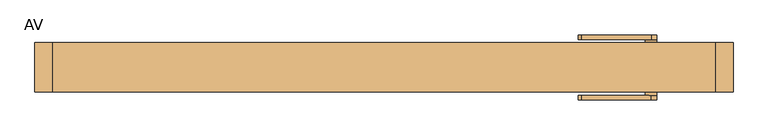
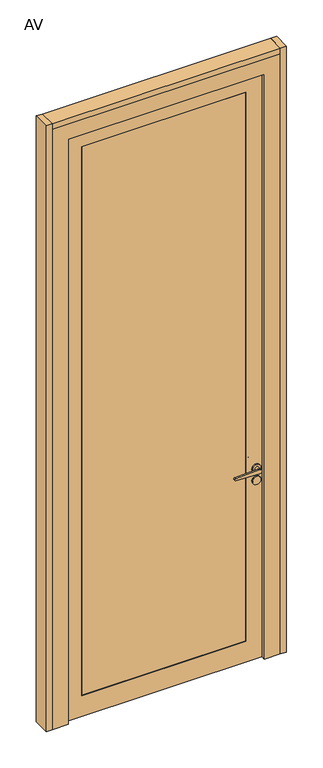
"""IFC4 building model written with IfcOpenShell, lengths in millimetres: door geometry, Mobiliário_Mobiliário de Escritório_Porta de Giro Vidro Duplo - AV_Marelli : AV."""

from ifc_helpers import new_model, si_unit, point, frame, frame_2d, origin, origin_with_axes, place, context, project, spatial, polyline, circle_curve, trimmed, segment, composite_curve, outline, extrude, faceted_brep, source, transform, mapped, element, save


def av_a8ed41e1(model_context):
    return source(origin(), model_context, "Body", "SolidModel", [
        extrude(outline(polyline([(-600.0, 42.5), (-570.0, 42.5), (-570.0, -42.5), (-600.0, -42.5), (-600.0, 42.5)])), origin_with_axes(), (0.0, 0.0, 1.0), 3200.0),
        extrude(outline(polyline([(600.0, 42.5), (600.0, -42.5), (570.0, -42.5), (570.0, 42.5), (600.0, 42.5)])), origin_with_axes(), (0.0, 0.0, 1.0), 3200.0),
        extrude(outline(polyline([(3119.5, -519.5), (0.5, -519.5), (0.5, 519.5), (3119.5, 519.5), (3119.5, -519.5)]), holes=[polyline([(110.5, 409.5), (110.5, -409.5), (3009.5, -409.5), (3009.5, 409.5), (110.5, 409.5)])]), frame((0.0, -21.0, 0.0), z_axis=(0.0, 1.0, 0.0), x_axis=(0.0, 0.0, 1.0)), (0.0, 0.0, 1.0), 42.0),
        extrude(outline(polyline([(409.5, 18.5), (409.5, 12.5), (-409.5, 12.5), (-409.5, 18.5), (409.5, 18.5)])), frame((0.0, 0.0, 110.5), z_axis=(0.0, 0.0, 1.0), x_axis=(1.0, 0.0, 0.0)), (0.0, 0.0, 1.0), 2899.0),
        extrude(outline(polyline([(409.5, -18.5), (-409.5, -18.5), (-409.5, -12.5), (409.5, -12.5), (409.5, -18.5)])), frame((0.0, 0.0, 110.5), z_axis=(0.0, 0.0, 1.0), x_axis=(1.0, 0.0, 0.0)), (0.0, 0.0, 1.0), 2899.0),
        extrude(outline(polyline([(570.0, 42.5), (570.0, -42.5), (-570.0, -42.5), (-570.0, 42.5), (570.0, 42.5)])), frame((0.0, 0.0, 3170.0), z_axis=(0.0, 0.0, 1.0), x_axis=(1.0, 0.0, 0.0)), (0.0, 0.0, 1.0), 30.0),
        faceted_brep([(-570.0, -42.5, 3170.0), (-570.0, -42.5, 0.0), (-490.0, -42.5, 0.0), (-490.0, -42.5, 3090.0), (490.0, -42.5, 3090.0), (490.0, -42.5, 0.0), (570.0, -42.5, 0.0), (570.0, -42.5, 3170.0), (-570.0, 42.5, 3170.0), (-570.0, 42.5, 0.0), (490.0, -21.5, 0.0), (520.0, -21.5, 0.0), (520.0, 42.5, 0.0), (570.0, 42.5, 0.0), (-520.0, 42.5, 0.0), (-520.0, -21.5, 0.0), (-490.0, -21.5, 0.0), (-490.0, -21.5, 3090.0), (490.0, -21.5, 3090.0), (570.0, 42.5, 3170.0), (-520.0, -21.5, 3120.0), (520.0, -21.5, 3120.0), (-520.0, 42.5, 3120.0), (520.0, 42.5, 3120.0)], [[[0, 1, 2, 3, 4, 5, 6, 7]], [[0, 8, 9, 1]], [[6, 5, 10, 11, 12, 13]], [[1, 9, 14, 15, 16, 2]], [[2, 16, 17, 3]], [[10, 5, 4, 18]], [[19, 7, 6, 13]], [[18, 17, 16, 15, 20, 21, 11, 10]], [[20, 15, 14, 22]], [[12, 11, 21, 23]], [[23, 22, 14, 9, 8, 19, 13, 12]], [[4, 3, 17, 18]], [[22, 23, 21, 20]], [[19, 8, 0, 7]]]),
        extrude(outline(composite_curve([segment(trimmed(circle_curve(frame_2d((1010.0, 459.2)), 20.8), [point((1010.0, 438.4))], [point((1010.0, 480.0))], False, "CARTESIAN"), True, "CONTINUOUS"), segment(trimmed(circle_curve(frame_2d((1010.0, 459.2)), 20.8), [point((1010.0, 480.0))], [point((1010.0, 438.4))], False, "CARTESIAN"), True, "CONTINUOUS")], self_intersect=False)), frame((0.0, 21.0, 0.0), z_axis=(0.0, 1.0, 0.0), x_axis=(0.0, 0.0, 1.0)), (0.0, 0.0, 1.0), 8.0),
        extrude(outline(composite_curve([segment(trimmed(circle_curve(frame_2d((947.58, 459.2)), 20.8), [point((947.58, 438.4))], [point((947.58, 480.0))], False, "CARTESIAN"), True, "CONTINUOUS"), segment(trimmed(circle_curve(frame_2d((947.58, 459.2)), 20.8), [point((947.58, 480.0))], [point((947.58, 438.4))], False, "CARTESIAN"), True, "CONTINUOUS")], self_intersect=False)), frame((0.0, 21.0, 0.0), z_axis=(0.0, 1.0, 0.0), x_axis=(0.0, 0.0, 1.0)), (0.0, 0.0, 1.0), 8.0),
        extrude(outline(composite_curve([segment(trimmed(circle_curve(frame_2d((1010.0, 459.2)), 20.8), [point((1010.0, 438.4))], [point((1010.0, 480.0))], False, "CARTESIAN"), True, "CONTINUOUS"), segment(trimmed(circle_curve(frame_2d((1010.0, 459.2)), 20.8), [point((1010.0, 480.0))], [point((1010.0, 438.4))], False, "CARTESIAN"), True, "CONTINUOUS")], self_intersect=False)), frame((0.0, -29.0, 0.0), z_axis=(0.0, 1.0, 0.0), x_axis=(0.0, 0.0, 1.0)), (0.0, 0.0, 1.0), 8.0),
        extrude(outline(composite_curve([segment(trimmed(circle_curve(frame_2d((947.58, 459.2)), 20.8), [point((947.58, 438.4))], [point((947.58, 480.0))], False, "CARTESIAN"), True, "CONTINUOUS"), segment(trimmed(circle_curve(frame_2d((947.58, 459.2)), 20.8), [point((947.58, 480.0))], [point((947.58, 438.4))], False, "CARTESIAN"), True, "CONTINUOUS")], self_intersect=False)), frame((0.0, -29.0, 0.0), z_axis=(0.0, 1.0, 0.0), x_axis=(0.0, 0.0, 1.0)), (0.0, 0.0, 1.0), 8.0),
        extrude(outline(composite_curve([segment(trimmed(circle_curve(frame_2d((1010.0, 459.2)), 10.0), [point((1000.0, 459.2))], [point((1020.0, 459.2))], False, "CARTESIAN"), True, "CONTINUOUS"), segment(polyline([(1020.0, 459.2), (1014.970724, 339.0650676)]), True, "CONTINUOUS"), segment(trimmed(circle_curve(frame_2d((1010.0145906, 339.0650676)), 4.9561334), [point((1014.970724, 339.0650676))], [point((1005.0584573, 339.0650676))], False, "CARTESIAN"), True, "CONTINUOUS"), segment(polyline([(1005.0584573, 339.0650676), (1000.0, 459.2)]), True, "CONTINUOUS")], self_intersect=False)), frame((0.0, 48.0, 0.0), z_axis=(0.0, 1.0, 0.0), x_axis=(0.0, 0.0, 1.0)), (0.0, 0.0, 1.0), 8.0),
        extrude(outline(composite_curve([segment(trimmed(circle_curve(frame_2d((1010.0, 459.2)), 10.0), [point((1010.0, 449.2))], [point((1010.0, 469.2))], False, "CARTESIAN"), True, "CONTINUOUS"), segment(trimmed(circle_curve(frame_2d((1010.0, 459.2)), 10.0), [point((1010.0, 469.2))], [point((1010.0, 449.2))], False, "CARTESIAN"), True, "CONTINUOUS")], self_intersect=False)), frame((0.0, -48.0, 0.0), z_axis=(0.0, 1.0, 0.0), x_axis=(0.0, 0.0, 1.0)), (0.0, 0.0, 1.0), 19.0),
        extrude(outline(composite_curve([segment(trimmed(circle_curve(frame_2d((1010.0, 459.2)), 10.0), [point((1010.0, 449.2))], [point((1010.0, 469.2))], False, "CARTESIAN"), True, "CONTINUOUS"), segment(trimmed(circle_curve(frame_2d((1010.0, 459.2)), 10.0), [point((1010.0, 469.2))], [point((1010.0, 449.2))], False, "CARTESIAN"), True, "CONTINUOUS")], self_intersect=False)), frame((0.0, 29.0, 0.0), z_axis=(0.0, 1.0, 0.0), x_axis=(0.0, 0.0, 1.0)), (0.0, 0.0, 1.0), 19.0),
        extrude(outline(composite_curve([segment(trimmed(circle_curve(frame_2d((1010.0145906, 339.0650676)), 4.9561334), [point((1014.970724, 339.0650676))], [point((1005.0584573, 339.0650676))], False, "CARTESIAN"), True, "CONTINUOUS"), segment(polyline([(1005.0584573, 339.0650676), (1000.0, 459.2)]), True, "CONTINUOUS"), segment(trimmed(circle_curve(frame_2d((1010.0, 459.2)), 10.0), [point((1000.0, 459.2))], [point((1020.0, 459.2))], False, "CARTESIAN"), True, "CONTINUOUS"), segment(polyline([(1020.0, 459.2), (1014.970724, 339.0650676)]), True, "CONTINUOUS")], self_intersect=False)), frame((0.0, -56.0, 0.0), z_axis=(0.0, 1.0, 0.0), x_axis=(0.0, 0.0, 1.0)), (0.0, 0.0, 1.0), 8.0),
    ])


if __name__ == "__main__":
    model = new_model("IFC4")
    model_context = context("Model", 3, world=origin())
    ifc_project = project(units=[si_unit("LENGTHUNIT", "METRE", prefix="MILLI")], contexts=[model_context])
    site = spatial("IfcSite", under=ifc_project)
    building = spatial("IfcBuilding", under=site)
    placement = place(None, origin())
    av_shape = av_a8ed41e1(model_context)
    element("IfcDoor", 1, ObjectType="Mobiliário_Mobiliário de Escritório_Porta de Giro Vidro Duplo - AV_Marelli : AV", at=placement, inside=building, context=model_context, shape_type="MappedRepresentation", body=[
        mapped(av_shape, transform((0.0, 0.0, 0.0), x_axis=(1.0, 0.0, 0.0), y_axis=(0.0, 1.0, 0.0), z_axis=(0.0, 0.0, 1.0))),
    ])
    save(model, "model.ifc")
